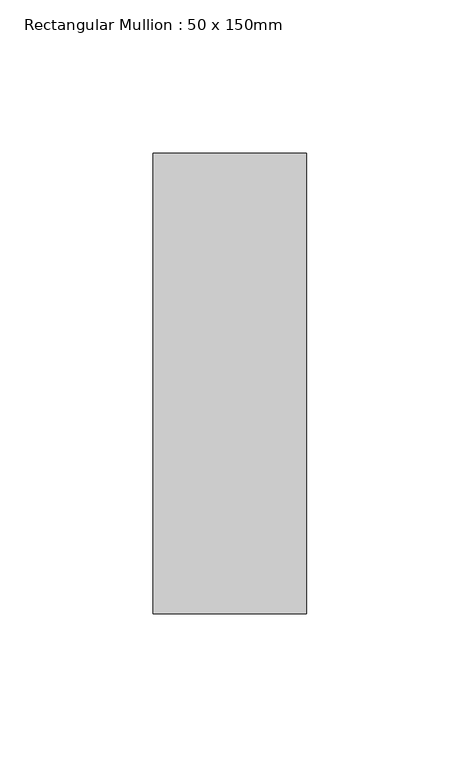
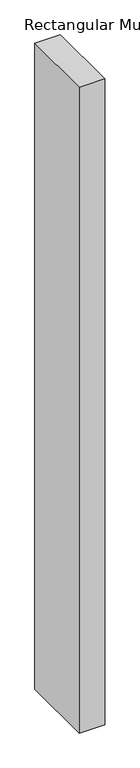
"""IFC4 building model written with IfcOpenShell, lengths in millimetres: member geometry, Rectangular Mullion : 50 x 150mm."""

import ifcopenshell
import ifcopenshell.guid

model = None  # the IFC model being written
_history = None  # IfcOwnerHistory: only IFC2X3 demands one
_inside = {}  # id of a spatial element -> (the spatial element, [elements in it])
_under = {}  # id of a project, library or spatial element -> (it, [spatial elements below it])
_declared = {}  # id of a project -> (the project, [libraries it declares])
_typed = {}  # id of a type object -> (the type object, [elements of that type])
_made_of = {}  # id of a material, layer set ... -> (it, [elements and type objects made of it])


def new_model(schema):
    """Start an empty IFC model of exactly this schema.

    Asked for "IFC4X3", IfcOpenShell would pick the latest addendum, in which some entities
    have other attributes; the version numbers below select the first issue.
    IFC2X3 requires an IfcOwnerHistory on every rooted entity: one is made here for all.
    """
    global model, _history
    if schema == "IFC4X3":
        model = ifcopenshell.file(schema_version=(4, 3, 0, 0))
    else:
        model = ifcopenshell.file(schema=schema)
    _inside.clear()
    _under.clear()
    _declared.clear()
    _typed.clear()
    _made_of.clear()
    _history = None
    if model.schema == "IFC2X3":
        org = make("IfcOrganization", Name="unknown")
        user = make(
            "IfcPersonAndOrganization",
            ThePerson=make("IfcPerson", FamilyName="unknown"),
            TheOrganization=org,
        )
        app = make(
            "IfcApplication",
            ApplicationDeveloper=org,
            Version="unknown",
            ApplicationFullName="unknown",
            ApplicationIdentifier="unknown",
        )
        _history = make(
            "IfcOwnerHistory",
            OwningUser=user,
            OwningApplication=app,
            ChangeAction="ADDED",
            CreationDate=0,
        )
    return model


def make(cls, **values):
    """One entity of the class cls with the attributes given. An attribute that is None is left unset."""
    return model.create_entity(
        cls, **{name: value for name, value in values.items() if value is not None}
    )


def rooted(cls, **values):
    """An entity with a GlobalId (a new one), such as an element, a storey or a relation."""
    return make(cls, GlobalId=ifcopenshell.guid.new(), OwnerHistory=_history, **values)


def si_unit(unit_type, name, prefix=None):
    """IfcSIUnit, for example si_unit("LENGTHUNIT", "METRE", prefix="MILLI")."""
    return make("IfcSIUnit", UnitType=unit_type, Prefix=prefix, Name=name)


def assignment(units):
    """IfcUnitAssignment: the units of a project."""
    return None if units is None else make("IfcUnitAssignment", Units=units)


def point(xyz):
    """IfcCartesianPoint."""
    return None if xyz is None else make("IfcCartesianPoint", Coordinates=xyz)


def direction(xyz):
    """IfcDirection."""
    return None if xyz is None else make("IfcDirection", DirectionRatios=xyz)


def frame(location, z_axis=None, x_axis=None):
    """IfcAxis2Placement3D, a coordinate frame: its origin and axes. An axis left out is left unset."""
    return make(
        "IfcAxis2Placement3D",
        Location=point(location),
        Axis=direction(z_axis),
        RefDirection=direction(x_axis),
    )


def origin():
    """The frame at (0, 0, 0) with its axes left unset."""
    return frame((0.0, 0.0, 0.0))


def place(relative_to, where):
    """IfcLocalPlacement: puts the frame where relative to a parent placement (None: the world)."""
    return make(
        "IfcLocalPlacement", PlacementRelTo=relative_to, RelativePlacement=where
    )


def context(
    kind, dimensions, precision=None, world=None, true_north=None, identifier=None
):
    """IfcGeometricRepresentationContext, for example the 3D "Model" context."""
    return make(
        "IfcGeometricRepresentationContext",
        ContextIdentifier=identifier,
        ContextType=kind,
        CoordinateSpaceDimension=dimensions,
        Precision=precision,
        WorldCoordinateSystem=world,
        TrueNorth=true_north,
    )


def project(units=None, contexts=None):
    """IfcProject with its units and contexts."""
    return rooted(
        "IfcProject",
        Name="project",
        RepresentationContexts=contexts,
        UnitsInContext=assignment(units),
    )


def spatial(cls, under=None, at=None, **own):
    """A site, building, storey or space (cls), placed at a placement, below another one or the project."""
    s = rooted(cls, ObjectPlacement=at, **own)
    if under is not None:
        _under.setdefault(under.id(), (under, []))[1].append(s)
    return s


def polyline(points):
    """IfcPolyline through the points."""
    return make("IfcPolyline", Points=[point(p) for p in points])


def outline(outer, holes=None, kind="AREA"):
    """IfcArbitraryClosedProfileDef: a profile drawn as a closed curve; with holes, ...WithVoids."""
    if holes is None:
        return make("IfcArbitraryClosedProfileDef", ProfileType=kind, OuterCurve=outer)
    return make(
        "IfcArbitraryProfileDefWithVoids",
        ProfileType=kind,
        OuterCurve=outer,
        InnerCurves=holes,
    )


def extrude(swept, where, along, depth):
    """IfcExtrudedAreaSolid: the profile swept, set in the frame where, extruded along a direction by depth."""
    return make(
        "IfcExtrudedAreaSolid",
        SweptArea=swept,
        Position=where,
        ExtrudedDirection=direction(along),
        Depth=depth,
    )


def shape(context_of_items, identifier, shape_type, items):
    """IfcShapeRepresentation: the items that make up one representation, for example the "Body"."""
    return make(
        "IfcShapeRepresentation",
        ContextOfItems=context_of_items,
        RepresentationIdentifier=identifier,
        RepresentationType=shape_type,
        Items=items,
    )


def source(mapping_origin, context_of_items, identifier, shape_type, items):
    """IfcRepresentationMap: a shape defined once, which mapped items show again and again."""
    return make(
        "IfcRepresentationMap",
        MappingOrigin=mapping_origin,
        MappedRepresentation=shape(context_of_items, identifier, shape_type, items),
    )


def transform(
    local_origin,
    x_axis=None,
    y_axis=None,
    z_axis=None,
    scale=None,
    scale2=None,
    scale3=None,
    uniform=True,
):
    """IfcCartesianTransformationOperator3D, or its non-uniform kind. x_axis, y_axis, z_axis: its Axis1, 2, 3."""
    if uniform:
        return make(
            "IfcCartesianTransformationOperator3D",
            Axis1=direction(x_axis),
            Axis2=direction(y_axis),
            LocalOrigin=point(local_origin),
            Scale=scale,
            Axis3=direction(z_axis),
        )
    return make(
        "IfcCartesianTransformationOperator3DnonUniform",
        Axis1=direction(x_axis),
        Axis2=direction(y_axis),
        LocalOrigin=point(local_origin),
        Scale=scale,
        Axis3=direction(z_axis),
        Scale2=scale2,
        Scale3=scale3,
    )


def mapped(mapping_source, mapping_target):
    """IfcMappedItem: shows the shape of a source again, moved by a transform."""
    return make(
        "IfcMappedItem", MappingSource=mapping_source, MappingTarget=mapping_target
    )


def made_of(thing, what):
    """Note that an element or type object is made of a material, layer set ...; save() writes the relation."""
    if what is not None:
        _made_of.setdefault(what.id(), (what, []))[1].append(thing)
    return thing


def element(
    cls,
    number,
    at=None,
    inside=None,
    cuts=None,
    type_object=None,
    material=None,
    context=None,
    identifier="Body",
    shape_type=None,
    held_by="IfcProductDefinitionShape",
    body=None,
    shapes=None,
    **own,
):
    """One element of the class cls, such as IfcWall. Its Tag is "e" and its number.

    at: its placement. inside: the storey or other place that contains it. cuts: it is an
    opening in that element (IfcRelVoidsElement). A single representation is given by context,
    identifier, shape_type and body (its items); several are given by shapes. held_by: the class
    of the entity that holds the representations. save() writes the other relations.
    """
    e = rooted(cls, Tag="e%d" % number, ObjectPlacement=at, **own)
    if body is not None:
        shapes = [shape(context, identifier, shape_type, body)]
    if shapes is not None:
        e.Representation = make(held_by, Representations=shapes)
    if inside is not None:
        _inside.setdefault(inside.id(), (inside, []))[1].append(e)
    if cuts is not None:
        rooted(
            "IfcRelVoidsElement", RelatingBuildingElement=cuts, RelatedOpeningElement=e
        )
    if type_object is not None:
        _typed.setdefault(type_object.id(), (type_object, []))[1].append(e)
    return made_of(e, material)


def aggregate(whole, parts):
    """IfcRelAggregates: a whole, such as a stair, and the parts it consists of."""
    return rooted("IfcRelAggregates", RelatingObject=whole, RelatedObjects=parts)


def save(model, path):
    """Write the relations noted so far, then the file.

    IfcRelAggregates (storeys below a building ...), IfcRelContainedInSpatialStructure (elements
    in a storey), IfcRelDefinesByType, IfcRelAssociatesMaterial and IfcRelDeclares: one each for
    every whole, place, type object, material and project.
    """
    for whole, parts in _under.values():
        aggregate(whole, parts)
    for where, things in _inside.values():
        rooted(
            "IfcRelContainedInSpatialStructure",
            RelatedElements=things,
            RelatingStructure=where,
        )
    for kind, things in _typed.values():
        rooted("IfcRelDefinesByType", RelatedObjects=things, RelatingType=kind)
    for what, things in _made_of.values():
        rooted("IfcRelAssociatesMaterial", RelatedObjects=things, RelatingMaterial=what)
    for by, libraries in _declared.values():
        rooted("IfcRelDeclares", RelatingContext=by, RelatedDefinitions=libraries)
    model.write(path)


def rectangular_mullion_50_x_150mm_c91e08bf(model_context):
    return source(origin(), model_context, "Body", "SweptSolid", [
        extrude(outline(polyline([(0.0, 75.0), (0.0, -75.0), (-50.0, -75.0), (-50.0, 75.0), (0.0, 75.0)])), frame((0.0, 0.0, -1334.9999999), z_axis=(0.0, 0.0, 1.0), x_axis=(1.0, 0.0, 0.0)), (0.0, 0.0, 1.0), 1334.9999999),
    ])


if __name__ == "__main__":
    model = new_model("IFC4")
    model_context = context("Model", 3, world=origin())
    ifc_project = project(units=[si_unit("LENGTHUNIT", "METRE", prefix="MILLI")], contexts=[model_context])
    site = spatial("IfcSite", under=ifc_project)
    building = spatial("IfcBuilding", under=site)
    placement = place(None, origin())
    rectangular_mullion_50_x_150mm_shape = rectangular_mullion_50_x_150mm_c91e08bf(model_context)
    element("IfcMember", 1, ObjectType="Rectangular Mullion : 50 x 150mm", at=placement, inside=building, context=model_context, shape_type="MappedRepresentation", body=[
        mapped(rectangular_mullion_50_x_150mm_shape, transform((0.0, 0.0, 0.0), x_axis=(1.0, 0.0, 0.0), y_axis=(0.0, 1.0, 0.0), z_axis=(0.0, 0.0, 1.0))),
    ])
    save(model, "model.ifc")
